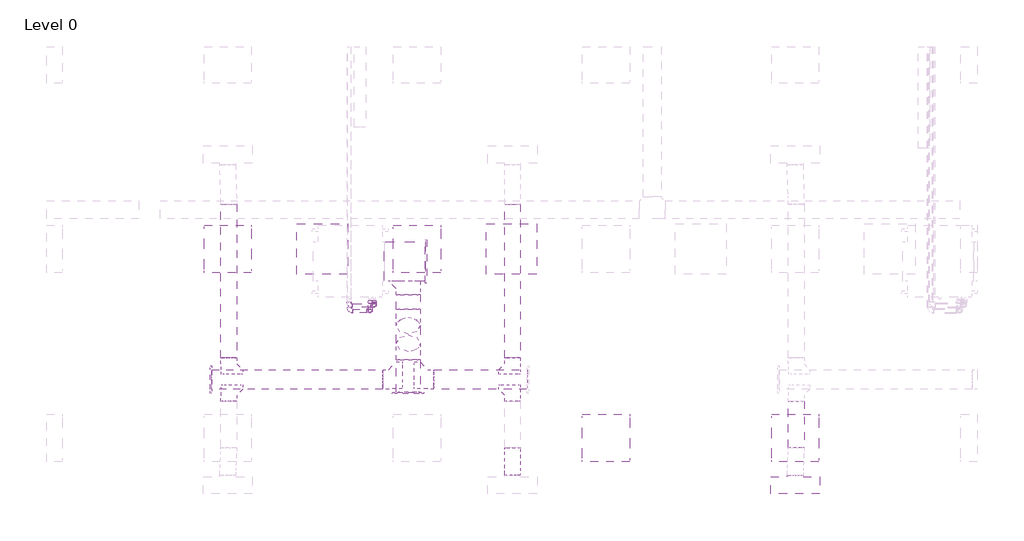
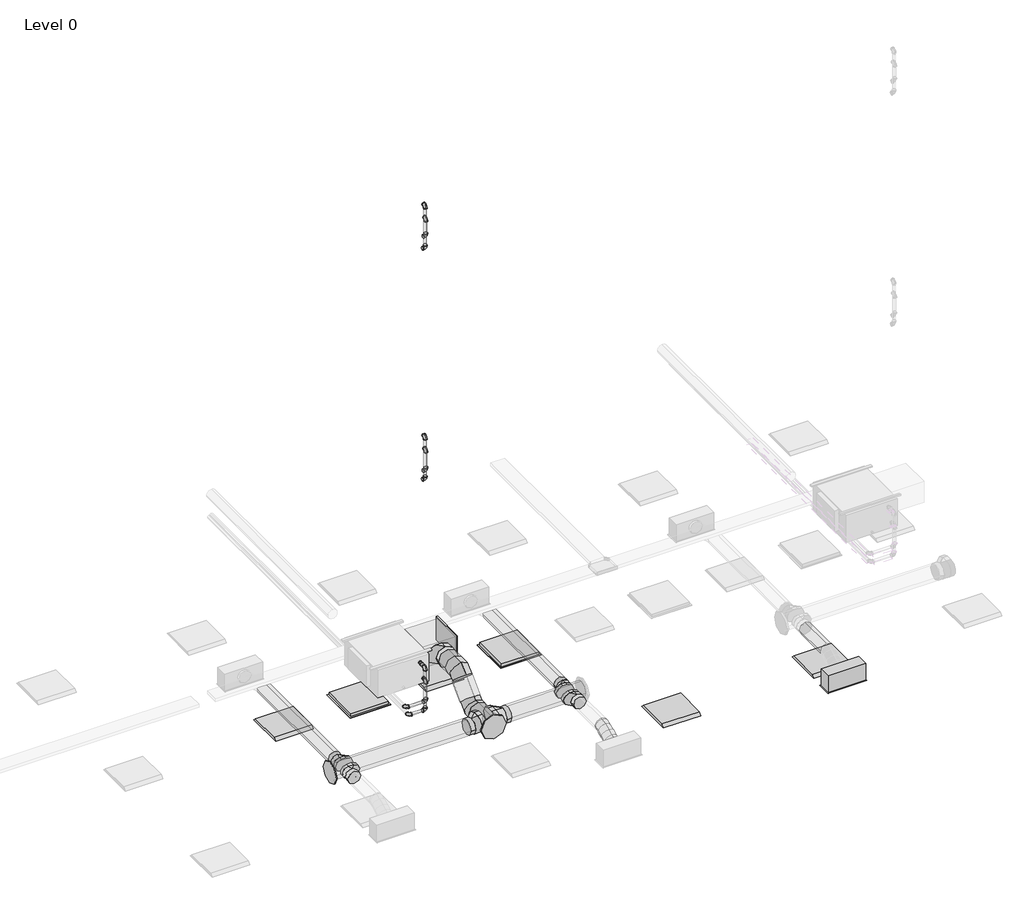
# One storey, part 8 of 34: 16 pipe fittings, 12 duct fittings, 10 duct segments, 10 pipe segments, 4 light fixtures, 3 air terminals.
"""IFC4 building model written with IfcOpenShell, lengths in millimetres."""

from ifc_helpers import new_model, si_unit, point, frame, frame_2d, origin, place, context, project, spatial, polyline, circle_curve, ellipse_curve, trimmed, segment, composite_curve, outline, extrude, transform, mapped, element, save
from ifc_brep_helpers import plane_surface, cylinder_surface, advanced_brep
from components import return_grille_rectangular_hosted_standard_7b12617c, supply_diffuser_with_plenum_linear_slot_hosted_8c379eed, dw144_rectangular_blank_end_standard_8fde7d16, dw144_round_blank_end_standard_f82b0856, dw144_round_blank_end_standard_9aa061e7, dw144_round_segmented_bend_slip_joint_standard_8b80c5ae, dw144_round_shoe_branch_slip_joint1_standard_2_15a2edd8, dw144_round_shoe_branch_slip_joint1_standard_2_559552f4, dw144_round_shoe_branch_slip_joint1_standard_2_7ba9e4ed, dw144_round_shoe_branch_slip_joint1_standard_2_67b64720, light_fixture_1c7c1157, light_fixture_b730b5ca, elbow_threaded_gmi_standard_b4aa7741, socket_reducing_threaded_gmi_standard_0a4076b8

model = new_model("IFC4")

# Units and contexts
model_context = context("Model", 3, world=origin())
ifc_project = project(units=[si_unit("LENGTHUNIT", "METRE", prefix="MILLI")], contexts=[model_context])

# Site, building, storey
site = spatial("IfcSite", under=ifc_project)
building = spatial("IfcBuilding", under=site)
storey = spatial("IfcBuildingStorey", under=building, Name="Level 0", Elevation=0.0)

# Air terminals
placement = place(None, origin())
return_grille_rectangular_hosted_standard_shape = return_grille_rectangular_hosted_standard_7b12617c(model_context)
element("IfcAirTerminal", 1, ObjectType="Return Grille - Rectangular - Hosted : Standard", at=placement, inside=storey, context=model_context, shape_type="MappedRepresentation", body=[
    mapped(return_grille_rectangular_hosted_standard_shape, transform((17562.2000027, 3963.2000004, 2800.0), x_axis=(1.0, 0.0, 0.0), y_axis=(0.0, -1.0, 0.0), z_axis=(0.0, 0.0, -1.0))),
])
element("IfcAirTerminal", 2, ObjectType="Return Grille - Rectangular - Hosted : Standard", at=placement, inside=storey, context=model_context, shape_type="MappedRepresentation", body=[
    mapped(return_grille_rectangular_hosted_standard_shape, transform((19962.2000027, 3963.2000004, 2800.0), x_axis=(1.0, 0.0, 0.0), y_axis=(0.0, -1.0, 0.0), z_axis=(0.0, 0.0, -1.0))),
])
supply_diffuser_with_plenum_linear_slot_hosted_shape = supply_diffuser_with_plenum_linear_slot_hosted_8c379eed(model_context)
element("IfcAirTerminal", 3, ObjectType="Supply Diffuser with Plenum - Linear Slot - Hosted : 24\" x 8\"-200 In Inlet  4-Slot", at=placement, inside=storey, context=model_context, shape_type="MappedRepresentation", body=[
    mapped(supply_diffuser_with_plenum_linear_slot_hosted_shape, transform((23562.2000027, 963.2000004, 2800.0), x_axis=(1.0, 0.0, 0.0), y_axis=(0.0, -1.0, 0.0), z_axis=(0.0, 0.0, -1.0))),
])

# Duct fittings
dw144_rectangular_blank_end_standard_shape = dw144_rectangular_blank_end_standard_8fde7d16(model_context)
element("IfcDuctFitting", 4, ObjectType="DW144 Rectangular Blank End : Standard", at=placement, inside=storey, context=model_context, shape_type="MappedRepresentation", body=[
    mapped(dw144_rectangular_blank_end_standard_shape, transform((18866.2561025, 3806.0000004, 3476.3911538), x_axis=(1.0, 0.0, 0.0), y_axis=(0.0, 1.0, 0.0), z_axis=(0.0, 0.0, 1.0))),
])
dw144_round_blank_end_standard_shape = dw144_round_blank_end_standard_f82b0856(model_context)
element("IfcDuctFitting", 5, ObjectType="DW144 Round Blank End : Standard", at=placement, inside=storey, context=model_context, shape_type="MappedRepresentation", body=[
    mapped(dw144_round_blank_end_standard_shape, transform((18651.4561025, 2142.9916128, 3072.2088531), x_axis=(0.0, -1.0, 0.0), y_axis=(1.0, 0.0, 0.0), z_axis=(0.0, 0.0, 1.0))),
])
dw144_round_blank_end_standard_2_shape = dw144_round_blank_end_standard_9aa061e7(model_context)
element("IfcDuctFitting", 6, ObjectType="DW144 Round Blank End : Standard", at=placement, inside=storey, context=model_context, shape_type="MappedRepresentation", body=[
    mapped(dw144_round_blank_end_standard_2_shape, transform((16161.4561025, 2306.5018192, 3072.2088531), x_axis=(-1.0, 0.0, 0.0), y_axis=(0.0, -1.0, 0.0), z_axis=(0.0, 0.0, 1.0))),
])
dw144_round_segmented_bend_slip_joint_standard_shape = dw144_round_segmented_bend_slip_joint_standard_8b80c5ae(model_context)
element("IfcDuctFitting", 7, ObjectType="DW144 Round Segmented Bend - Slip Joint : Standard", at=placement, inside=storey, context=model_context, shape_type="MappedRepresentation", body=[
    mapped(dw144_round_segmented_bend_slip_joint_standard_shape, transform((18651.4561025, 2678.6338536, 3072.2088531), x_axis=(0.0, -0.7071067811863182, -0.7071067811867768), y_axis=(0.0, 0.7071067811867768, -0.7071067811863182), z_axis=(1.0, 0.0, 0.0))),
])
element("IfcDuctFitting", 8, ObjectType="DW144 Round Segmented Bend - Slip Joint : Standard", at=placement, inside=storey, context=model_context, shape_type="MappedRepresentation", body=[
    mapped(dw144_round_segmented_bend_slip_joint_standard_shape, transform((18651.4561025, 3076.0000004, 3469.575), x_axis=(0.0, -1.0, 0.0), y_axis=(0.0, 0.0, 1.0), z_axis=(-1.0, 0.0, 0.0))),
])
dw144_round_shoe_branch_slip_joint1_standard_2_shape = dw144_round_shoe_branch_slip_joint1_standard_2_15a2edd8(model_context)
element("IfcDuctFitting", 9, ObjectType="DW144 Round Shoe Branch - Slip Joint1 : Standard 2", at=placement, inside=storey, context=model_context, shape_type="MappedRepresentation", body=[
    mapped(dw144_round_shoe_branch_slip_joint1_standard_2_shape, transform((16373.9000022, 2181.5018192, 3072.2088531), x_axis=(0.0, -1.0, 0.0), y_axis=(-1.0, 0.0, 0.0), z_axis=(0.0, 0.0, -1.0))),
])
element("IfcDuctFitting", 10, ObjectType="DW144 Round Shoe Branch - Slip Joint1 : Standard 2", at=placement, inside=storey, context=model_context, shape_type="MappedRepresentation", body=[
    mapped(dw144_round_shoe_branch_slip_joint1_standard_2_shape, transform((16373.9000022, 2431.5018192, 3072.2088531), x_axis=(0.0, 1.0, 0.0), y_axis=(-1.0, 0.0, 0.0), z_axis=(0.0, 0.0, 1.0))),
])
dw144_round_shoe_branch_slip_joint1_standard_2_2_shape = dw144_round_shoe_branch_slip_joint1_standard_2_559552f4(model_context)
element("IfcDuctFitting", 11, ObjectType="DW144 Round Shoe Branch - Slip Joint1 : Standard 2", at=placement, inside=storey, context=model_context, shape_type="MappedRepresentation", body=[
    mapped(dw144_round_shoe_branch_slip_joint1_standard_2_2_shape, transform((19973.9000022, 2181.5018192, 3072.2088531), x_axis=(0.0, -1.0, 0.0), y_axis=(-1.0, 0.0, 0.0), z_axis=(0.0, 0.0, -1.0))),
])
element("IfcDuctFitting", 12, ObjectType="DW144 Round Shoe Branch - Slip Joint1 : Standard 2", at=placement, inside=storey, context=model_context, shape_type="MappedRepresentation", body=[
    mapped(dw144_round_shoe_branch_slip_joint1_standard_2_2_shape, transform((19973.9000022, 2431.5018192, 3072.2088531), x_axis=(0.0, 1.0, 0.0), y_axis=(-1.0, 0.0, 0.0), z_axis=(0.0, 0.0, 1.0))),
])
dw144_round_shoe_branch_slip_joint1_standard_2_3_shape = dw144_round_shoe_branch_slip_joint1_standard_2_7ba9e4ed(model_context)
element("IfcDuctFitting", 13, ObjectType="DW144 Round Shoe Branch - Slip Joint1 : Standard 2", at=placement, inside=storey, context=model_context, shape_type="MappedRepresentation", body=[
    mapped(dw144_round_shoe_branch_slip_joint1_standard_2_3_shape, transform((18651.4561025, 3556.0000004, 3469.575), x_axis=(0.0, -1.0, 0.0), y_axis=(-1.0, 0.0, 0.0), z_axis=(0.0, 0.0, -1.0))),
])
dw144_round_shoe_branch_slip_joint1_standard_2_4_shape = dw144_round_shoe_branch_slip_joint1_standard_2_67b64720(model_context)
element("IfcDuctFitting", 14, ObjectType="DW144 Round Shoe Branch - Slip Joint1 : Standard 2", at=placement, inside=storey, context=model_context, shape_type="MappedRepresentation", body=[
    mapped(dw144_round_shoe_branch_slip_joint1_standard_2_4_shape, transform((18801.4561025, 2306.5018192, 3072.2088531), x_axis=(1.0, 0.0, 0.0), y_axis=(0.0, -1.0, 0.0), z_axis=(0.0, 0.0, -1.0))),
])
element("IfcDuctFitting", 15, ObjectType="DW144 Round Shoe Branch - Slip Joint1 : Standard 2", at=placement, inside=storey, context=model_context, shape_type="MappedRepresentation", body=[
    mapped(dw144_round_shoe_branch_slip_joint1_standard_2_4_shape, transform((18501.4561025, 2306.5018192, 3072.2088531), x_axis=(-1.0, 0.0, 0.0), y_axis=(0.0, -1.0, 0.0), z_axis=(0.0, 0.0, 1.0))),
])

# Duct segments
element("IfcDuctSegment", 16, ObjectType="DW144 Flanged Med Radius Bend / Shoe Branch", at=placement, inside=storey, context=model_context, shape_type="SweptSolid", body=[
    extrude(outline(polyline([(18346.6561025, 3556.0000004), (18346.6561025, 4056.0000004), (18866.2561025, 4056.0000004), (18866.2561025, 3556.0000004), (18346.6561025, 3556.0000004)])), frame((0.0, 0.0, 3301.3911538), z_axis=(0.0, 0.0, 1.0), x_axis=(1.0, 0.0, 0.0)), (0.0, 0.0, 1.0), 350.0),
])
element("IfcDuctSegment", 17, ObjectType="DW144 Segmented Bend / Shoe Branch", at=placement, inside=storey, context=model_context, shape_type="SweptSolid", body=[
    extrude(outline(composite_curve([segment(trimmed(circle_curve(frame_2d((3469.575, 18651.4561025)), 150.0), [point((3469.575, 18501.4561025))], [point((3319.575, 18651.4561025))], False, "CARTESIAN"), True, "CONTINUOUS"), segment(trimmed(circle_curve(frame_2d((3469.575, 18651.4561025)), 150.0), [point((3319.575, 18651.4561025))], [point((3469.575, 18801.4561025))], False, "CARTESIAN"), True, "CONTINUOUS"), segment(trimmed(circle_curve(frame_2d((3469.575, 18651.4561025)), 150.0), [point((3469.575, 18801.4561025))], [point((3619.575, 18651.4561025))], False, "CARTESIAN"), True, "CONTINUOUS"), segment(trimmed(circle_curve(frame_2d((3469.575, 18651.4561025)), 150.0), [point((3619.575, 18651.4561025))], [point((3469.575, 18501.4561025))], False, "CARTESIAN"), True, "CONTINUOUS")], self_intersect=False)), frame((0.0, 3200.2640691, 0.0), z_axis=(0.0, 1.0, 0.0), x_axis=(0.0, 0.0, 1.0)), (0.0, 0.0, 1.0), 180.7359313),
])
element("IfcDuctSegment", 18, ObjectType="DW144 Segmented Bend / Shoe Branch", at=placement, inside=storey, context=model_context, shape_type="SweptSolid", body=[
    extrude(outline(composite_curve([segment(trimmed(circle_curve(frame_2d((3072.2088531, 18651.4561025)), 150.0), [point((3072.2088531, 18501.4561025))], [point((2922.2088531, 18651.4561025))], False, "CARTESIAN"), True, "CONTINUOUS"), segment(trimmed(circle_curve(frame_2d((3072.2088531, 18651.4561025)), 150.0), [point((2922.2088531, 18651.4561025))], [point((3072.2088531, 18801.4561025))], False, "CARTESIAN"), True, "CONTINUOUS"), segment(trimmed(circle_curve(frame_2d((3072.2088531, 18651.4561025)), 150.0), [point((3072.2088531, 18801.4561025))], [point((3222.2088531, 18651.4561025))], False, "CARTESIAN"), True, "CONTINUOUS"), segment(trimmed(circle_curve(frame_2d((3072.2088531, 18651.4561025)), 150.0), [point((3222.2088531, 18651.4561025))], [point((3072.2088531, 18501.4561025))], False, "CARTESIAN"), True, "CONTINUOUS")], self_intersect=False)), frame((0.0, 2142.9916128, 0.0), z_axis=(0.0, 1.0, 0.0), x_axis=(0.0, 0.0, 1.0)), (0.0, 0.0, 1.0), 411.3781721),
])
element("IfcDuctSegment", 19, ObjectType="DW144 Segmented Bend / Shoe Branch", at=placement, inside=storey, context=model_context, shape_type="SweptSolid", body=[
    extrude(outline(composite_curve([segment(trimmed(circle_curve(frame_2d((0.0, -150.0)), 150.0), [point((-150.0, -150.0))], [point((0.0, 0.0))], False, "CARTESIAN"), True, "CONTINUOUS"), segment(trimmed(circle_curve(frame_2d((0.0, -150.0)), 150.0), [point((0.0, 0.0))], [point((150.0, -150.0))], False, "CARTESIAN"), True, "CONTINUOUS"), segment(trimmed(circle_curve(frame_2d((0.0, -150.0)), 150.0), [point((150.0, -150.0))], [point((0.0, -300.0))], False, "CARTESIAN"), True, "CONTINUOUS"), segment(trimmed(circle_curve(frame_2d((0.0, -150.0)), 150.0), [point((0.0, -300.0))], [point((-150.0, -150.0))], False, "CARTESIAN"), True, "CONTINUOUS")], self_intersect=False)), frame((18651.4561025, 2872.5678364, 3054.0108016), z_axis=(0.0, 0.7071067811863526, 0.7071067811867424), x_axis=(1.0, 0.0, 0.0)), (0.0, 0.0, 1.0), 313.4324567),
])
element("IfcDuctSegment", 20, ObjectType="DW144 Segmented Bend / Shoe Branch", at=placement, inside=storey, context=model_context, shape_type="SweptSolid", body=[
    extrude(outline(composite_curve([segment(trimmed(circle_curve(frame_2d((2306.5018192, 3072.2088531)), 125.0), [point((2181.5018192, 3072.2088531))], [point((2306.5018192, 3197.2088531))], False, "CARTESIAN"), True, "CONTINUOUS"), segment(trimmed(circle_curve(frame_2d((2306.5018192, 3072.2088531)), 125.0), [point((2306.5018192, 3197.2088531))], [point((2431.5018192, 3072.2088531))], False, "CARTESIAN"), True, "CONTINUOUS"), segment(trimmed(circle_curve(frame_2d((2306.5018192, 3072.2088531)), 125.0), [point((2431.5018192, 3072.2088531))], [point((2306.5018192, 2947.2088531))], False, "CARTESIAN"), True, "CONTINUOUS"), segment(trimmed(circle_curve(frame_2d((2306.5018192, 3072.2088531)), 125.0), [point((2306.5018192, 2947.2088531))], [point((2181.5018192, 3072.2088531))], False, "CARTESIAN"), True, "CONTINUOUS")], self_intersect=False)), frame((18976.4561025, 0.0, 0.0), z_axis=(1.0, 0.0, 0.0), x_axis=(0.0, 1.0, 0.0)), (0.0, 0.0, 1.0), 1185.0),
])
element("IfcDuctSegment", 21, ObjectType="DW144 Segmented Bend / Shoe Branch", at=placement, inside=storey, context=model_context, shape_type="SweptSolid", body=[
    extrude(outline(composite_curve([segment(trimmed(circle_curve(frame_2d((2306.5018192, 3072.2088531)), 125.0), [point((2431.5018192, 3072.2088531))], [point((2306.5018192, 2947.2088531))], False, "CARTESIAN"), True, "CONTINUOUS"), segment(trimmed(circle_curve(frame_2d((2306.5018192, 3072.2088531)), 125.0), [point((2306.5018192, 2947.2088531))], [point((2181.5018192, 3072.2088531))], False, "CARTESIAN"), True, "CONTINUOUS"), segment(trimmed(circle_curve(frame_2d((2306.5018192, 3072.2088531)), 125.0), [point((2181.5018192, 3072.2088531))], [point((2306.5018192, 3197.2088531))], False, "CARTESIAN"), True, "CONTINUOUS"), segment(trimmed(circle_curve(frame_2d((2306.5018192, 3072.2088531)), 125.0), [point((2306.5018192, 3197.2088531))], [point((2431.5018192, 3072.2088531))], False, "CARTESIAN"), True, "CONTINUOUS")], self_intersect=False)), frame((16161.4561025, 0.0, 0.0), z_axis=(1.0, 0.0, 0.0), x_axis=(0.0, 1.0, 0.0)), (0.0, 0.0, 1.0), 2165.0),
])
element("IfcDuctSegment", 22, ObjectType="DW144 Segmented Bend / Shoe Branch", at=placement, inside=storey, context=model_context, shape_type="SweptSolid", body=[
    extrude(outline(composite_curve([segment(trimmed(circle_curve(frame_2d((3072.2088531, 19973.9000022)), 100.0), [point((3072.2088531, 20073.9000022))], [point((3172.2088531, 19973.9000022))], False, "CARTESIAN"), True, "CONTINUOUS"), segment(trimmed(circle_curve(frame_2d((3072.2088531, 19973.9000022)), 100.0), [point((3172.2088531, 19973.9000022))], [point((3072.2088531, 19873.9000022))], False, "CARTESIAN"), True, "CONTINUOUS"), segment(trimmed(circle_curve(frame_2d((3072.2088531, 19973.9000022)), 100.0), [point((3072.2088531, 19873.9000022))], [point((2972.2088531, 19973.9000022))], False, "CARTESIAN"), True, "CONTINUOUS"), segment(trimmed(circle_curve(frame_2d((3072.2088531, 19973.9000022)), 100.0), [point((2972.2088531, 19973.9000022))], [point((3072.2088531, 20073.9000022))], False, "CARTESIAN"), True, "CONTINUOUS")], self_intersect=False)), frame((0.0, 2581.5018192, 0.0), z_axis=(0.0, 1.0, 0.0), x_axis=(0.0, 0.0, 1.0)), (0.0, 0.0, 1.0), 1950.0),
])
element("IfcDuctSegment", 23, ObjectType="DW144 Segmented Bend / Shoe Branch", at=placement, inside=storey, context=model_context, shape_type="SweptSolid", body=[
    extrude(outline(composite_curve([segment(trimmed(circle_curve(frame_2d((3072.2088531, 16373.9000022)), 100.0), [point((3072.2088531, 16473.9000022))], [point((3172.2088531, 16373.9000022))], False, "CARTESIAN"), True, "CONTINUOUS"), segment(trimmed(circle_curve(frame_2d((3072.2088531, 16373.9000022)), 100.0), [point((3172.2088531, 16373.9000022))], [point((3072.2088531, 16273.9000022))], False, "CARTESIAN"), True, "CONTINUOUS"), segment(trimmed(circle_curve(frame_2d((3072.2088531, 16373.9000022)), 100.0), [point((3072.2088531, 16273.9000022))], [point((2972.2088531, 16373.9000022))], False, "CARTESIAN"), True, "CONTINUOUS"), segment(trimmed(circle_curve(frame_2d((3072.2088531, 16373.9000022)), 100.0), [point((2972.2088531, 16373.9000022))], [point((3072.2088531, 16473.9000022))], False, "CARTESIAN"), True, "CONTINUOUS")], self_intersect=False)), frame((0.0, 2581.5018192, 0.0), z_axis=(0.0, 1.0, 0.0), x_axis=(0.0, 0.0, 1.0)), (0.0, 0.0, 1.0), 1950.0),
])
element("IfcDuctSegment", 24, ObjectType="DW144 Segmented Bend / Shoe Branch", at=placement, inside=storey, context=model_context, shape_type="SweptSolid", body=[
    extrude(outline(composite_curve([segment(trimmed(circle_curve(frame_2d((3072.2088531, 23573.9000022)), 100.0), [point((3072.2088531, 23673.9000022))], [point((3172.2088531, 23573.9000022))], False, "CARTESIAN"), True, "CONTINUOUS"), segment(trimmed(circle_curve(frame_2d((3072.2088531, 23573.9000022)), 100.0), [point((3172.2088531, 23573.9000022))], [point((3072.2088531, 23473.9000022))], False, "CARTESIAN"), True, "CONTINUOUS"), segment(trimmed(circle_curve(frame_2d((3072.2088531, 23573.9000022)), 100.0), [point((3072.2088531, 23473.9000022))], [point((2972.2088531, 23573.9000022))], False, "CARTESIAN"), True, "CONTINUOUS"), segment(trimmed(circle_curve(frame_2d((3072.2088531, 23573.9000022)), 100.0), [point((2972.2088531, 23573.9000022))], [point((3072.2088531, 23673.9000022))], False, "CARTESIAN"), True, "CONTINUOUS")], self_intersect=False)), frame((0.0, 1441.5018192, 0.0), z_axis=(0.0, 1.0, 0.0), x_axis=(0.0, 0.0, 1.0)), (0.0, 0.0, 1.0), 590.0),
])
element("IfcDuctSegment", 25, ObjectType="Flex - Round", at=placement, inside=storey, context=model_context, shape_type="AdvancedBrep", body=[
    advanced_brep(
    [(20073.9000022, 1441.5018192, 3072.2088531), (19973.9000022, 1441.5018192, 2972.2088531), (19873.9000022, 1441.5018192, 3072.2088531), (19973.9000022, 1441.5018192, 3172.2088531), (20073.9000022, 1421.2831204, 3072.2088531), (19973.9000022, 1434.4030998, 2972.2088531), (19873.9000022, 1421.2831204, 3072.2088531), (19973.9000022, 1408.1631411, 3172.2088531), (20073.9000022, 1092.1000004, 2954.4), (19973.9000022, 1092.1000004, 3054.4), (19873.9000022, 1092.1000004, 2954.4), (19973.9000022, 1092.1000004, 2854.4), (20073.9000022, 1352.3395072, 3053.8012198), (19973.9000022, 1386.9157373, 2959.5299419), (19873.9000022, 1352.3395072, 3053.8012198), (19973.9000022, 1317.7632771, 3148.0724978), (20073.9000022, 1266.8009098, 3013.3044266), (19973.9000022, 1309.5909979, 2922.9218599), (19873.9000022, 1266.8009098, 3013.3044266), (19973.9000022, 1224.0108217, 3103.6869932), (20073.9000022, 1181.2623124, 2972.8076333), (19973.9000022, 1215.8385426, 2878.5363553), (19873.9000022, 1181.2623124, 2972.8076333), (19973.9000022, 1146.6860823, 3067.0789113), (20073.9000022, 1112.3186992, 2954.4), (19973.9000022, 1125.4386785, 2854.4), (19873.9000022, 1112.3186992, 2954.4), (19973.9000022, 1099.1987199, 3054.4)],
    [
        (0, 1, circle_curve(frame((19973.9000022, 1441.5018192, 3072.2088531), z_axis=(0.0, 1.0, 0.0), x_axis=(1.0, 0.0, 0.0)), 100.0)),
        (1, 2, circle_curve(frame((19973.9000022, 1441.5018192, 3072.2088531), z_axis=(0.0, 1.0, 0.0), x_axis=(1.0, 0.0, 0.0)), 100.0)),
        (2, 3, circle_curve(frame((19973.9000022, 1441.5018192, 3072.2088531), z_axis=(0.0, 1.0, 0.0), x_axis=(1.0, 0.0, 0.0)), 100.0)),
        (3, 0, circle_curve(frame((19973.9000022, 1441.5018192, 3072.2088531), z_axis=(0.0, 1.0, 0.0), x_axis=(1.0, 0.0, 0.0)), 100.0)),
        (0, 4),
        (4, 5, ellipse_curve(frame((19973.9000022, 1421.2831204, 3072.2088531), z_axis=(0.0, 0.9915028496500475, 0.1300849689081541), x_axis=(0.0, 0.13008496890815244, -0.9915028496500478)), 100.8569971, 100.0)),
        (5, 1),
        (5, 6, ellipse_curve(frame((19973.9000022, 1421.2831204, 3072.2088531), z_axis=(0.0, 0.9915028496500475, 0.1300849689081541), x_axis=(0.0, 0.13008496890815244, -0.9915028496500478)), 100.8569971, 100.0)),
        (6, 2),
        (6, 7, ellipse_curve(frame((19973.9000022, 1421.2831204, 3072.2088531), z_axis=(0.0, 0.9915028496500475, 0.1300849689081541), x_axis=(0.0, 0.13008496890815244, -0.9915028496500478)), 100.8569971, 100.0)),
        (7, 3),
        (7, 4, ellipse_curve(frame((19973.9000022, 1421.2831204, 3072.2088531), z_axis=(0.0, 0.9915028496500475, 0.1300849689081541), x_axis=(0.0, 0.13008496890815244, -0.9915028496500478)), 100.8569971, 100.0)),
        (8, 9, circle_curve(frame((19973.9000022, 1092.1000004, 2954.4), z_axis=(0.0, -1.0, 0.0), x_axis=(1.0, 0.0, 0.0)), 100.0)),
        (9, 10, circle_curve(frame((19973.9000022, 1092.1000004, 2954.4), z_axis=(0.0, -1.0, 0.0), x_axis=(1.0, 0.0, 0.0)), 100.0)),
        (10, 11, circle_curve(frame((19973.9000022, 1092.1000004, 2954.4), z_axis=(0.0, -1.0, 0.0), x_axis=(1.0, 0.0, 0.0)), 100.0)),
        (11, 8, circle_curve(frame((19973.9000022, 1092.1000004, 2954.4), z_axis=(0.0, -1.0, 0.0), x_axis=(1.0, 0.0, 0.0)), 100.0)),
        (4, 12),
        (12, 13, ellipse_curve(frame((19973.9000022, 1352.3395072, 3053.8012198), z_axis=(0.0, 0.9388438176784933, 0.34434326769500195), x_axis=(0.0, 0.344343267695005, -0.9388438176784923)), 100.4120986, 100.0)),
        (13, 5),
        (13, 14, ellipse_curve(frame((19973.9000022, 1352.3395072, 3053.8012198), z_axis=(0.0, 0.9388438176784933, 0.34434326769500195), x_axis=(0.0, 0.344343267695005, -0.9388438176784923)), 100.4120986, 100.0)),
        (14, 6),
        (14, 15, ellipse_curve(frame((19973.9000022, 1352.3395072, 3053.8012198), z_axis=(0.0, 0.9388438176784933, 0.34434326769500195), x_axis=(0.0, 0.344343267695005, -0.9388438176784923)), 100.4120986, 100.0)),
        (15, 7),
        (15, 12, ellipse_curve(frame((19973.9000022, 1352.3395072, 3053.8012198), z_axis=(0.0, 0.9388438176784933, 0.34434326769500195), x_axis=(0.0, 0.344343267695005, -0.9388438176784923)), 100.4120986, 100.0)),
        (12, 16),
        (16, 17, circle_curve(frame((19973.9000022, 1266.8009098, 3013.3044266), z_axis=(0.0, 0.903825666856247, 0.42790088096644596), x_axis=(1.0, 0.0, 0.0)), 100.0)),
        (17, 13),
        (17, 18, circle_curve(frame((19973.9000022, 1266.8009098, 3013.3044266), z_axis=(0.0, 0.903825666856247, 0.42790088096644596), x_axis=(1.0, 0.0, 0.0)), 100.0)),
        (18, 14),
        (18, 19, circle_curve(frame((19973.9000022, 1266.8009098, 3013.3044266), z_axis=(0.0, 0.903825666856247, 0.42790088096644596), x_axis=(1.0, 0.0, 0.0)), 100.0)),
        (19, 15),
        (19, 16, circle_curve(frame((19973.9000022, 1266.8009098, 3013.3044266), z_axis=(0.0, 0.903825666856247, 0.42790088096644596), x_axis=(1.0, 0.0, 0.0)), 100.0)),
        (16, 20),
        (20, 21, ellipse_curve(frame((19973.9000022, 1181.2623124, 2972.8076333), z_axis=(0.0, 0.9388438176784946, 0.3443432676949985), x_axis=(0.0, -0.34434326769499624, 0.9388438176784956)), 100.4120986, 100.0)),
        (21, 17),
        (21, 22, ellipse_curve(frame((19973.9000022, 1181.2623124, 2972.8076333), z_axis=(0.0, 0.9388438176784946, 0.3443432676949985), x_axis=(0.0, -0.34434326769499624, 0.9388438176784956)), 100.4120986, 100.0)),
        (22, 18),
        (22, 23, ellipse_curve(frame((19973.9000022, 1181.2623124, 2972.8076333), z_axis=(0.0, 0.9388438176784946, 0.3443432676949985), x_axis=(0.0, -0.34434326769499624, 0.9388438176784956)), 100.4120986, 100.0)),
        (23, 19),
        (23, 20, ellipse_curve(frame((19973.9000022, 1181.2623124, 2972.8076333), z_axis=(0.0, 0.9388438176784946, 0.3443432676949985), x_axis=(0.0, -0.34434326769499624, 0.9388438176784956)), 100.4120986, 100.0)),
        (20, 24),
        (24, 25, ellipse_curve(frame((19973.9000022, 1112.3186992, 2954.4), z_axis=(0.0, 0.9915028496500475, 0.13008496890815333), x_axis=(0.0, -0.13008496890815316, 0.9915028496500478)), 100.8569971, 100.0)),
        (25, 21),
        (25, 26, ellipse_curve(frame((19973.9000022, 1112.3186992, 2954.4), z_axis=(0.0, 0.9915028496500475, 0.13008496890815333), x_axis=(0.0, -0.13008496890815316, 0.9915028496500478)), 100.8569971, 100.0)),
        (26, 22),
        (26, 27, ellipse_curve(frame((19973.9000022, 1112.3186992, 2954.4), z_axis=(0.0, 0.9915028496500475, 0.13008496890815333), x_axis=(0.0, -0.13008496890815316, 0.9915028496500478)), 100.8569971, 100.0)),
        (27, 23),
        (27, 24, ellipse_curve(frame((19973.9000022, 1112.3186992, 2954.4), z_axis=(0.0, 0.9915028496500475, 0.13008496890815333), x_axis=(0.0, -0.13008496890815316, 0.9915028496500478)), 100.8569971, 100.0)),
        (24, 8),
        (11, 25),
        (10, 26),
        (9, 27),
    ],
    [
        plane_surface(frame((19873.9000022, 1441.5018192, 3072.2088531), z_axis=(0.0, 1.0, 0.0), x_axis=(0.0, 0.0, -1.0))),
        cylinder_surface(frame((19973.9000022, 1441.5018192, 3072.2088531), z_axis=(0.0, 1.0, 0.0), x_axis=(1.0, 0.0, 0.0)), 100.0),
        plane_surface(frame((19873.9000022, 1092.1000004, 2954.4), z_axis=(0.0, -1.0, 0.0), x_axis=(0.0, 0.0, -1.0))),
        cylinder_surface(frame((19973.9000022, 1421.2831204, 3072.2088531), z_axis=(0.0, 0.9661558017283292, 0.2579592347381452), x_axis=(1.0, 0.0, 0.0)), 100.0),
        cylinder_surface(frame((19973.9000022, 1352.3395072, 3053.8012198), z_axis=(0.0, 0.903825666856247, 0.42790088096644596), x_axis=(1.0, 0.0, 0.0)), 100.0),
        cylinder_surface(frame((19973.9000022, 1266.8009098, 3013.3044266), z_axis=(0.0, 0.9038256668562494, 0.42790088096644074), x_axis=(1.0, 0.0, 0.0)), 100.0),
        cylinder_surface(frame((19973.9000022, 1181.2623124, 2972.8076333), z_axis=(0.0, 0.9661558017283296, 0.25795923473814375), x_axis=(1.0, 0.0, 0.0)), 100.0),
        cylinder_surface(frame((19973.9000022, 1112.3186992, 2954.4), z_axis=(0.0, 1.0, 0.0), x_axis=(1.0, 0.0, 0.0)), 100.0),
    ],
    [
        (0, [[1, 2, 3, 4]]),
        (1, [[-1, 5, 6, 7]]),
        (1, [[-2, -7, 8, 9]]),
        (1, [[-3, -9, 10, 11]]),
        (1, [[-4, -11, 12, -5]]),
        (2, [[13, 14, 15, 16]]),
        (3, [[-6, 17, 18, 19]]),
        (3, [[-8, -19, 20, 21]]),
        (3, [[-10, -21, 22, 23]]),
        (3, [[-12, -23, 24, -17]]),
        (4, [[-18, 25, 26, 27]]),
        (4, [[-20, -27, 28, 29]]),
        (4, [[-22, -29, 30, 31]]),
        (4, [[-24, -31, 32, -25]]),
        (5, [[-26, 33, 34, 35]]),
        (5, [[-28, -35, 36, 37]]),
        (5, [[-30, -37, 38, 39]]),
        (5, [[-32, -39, 40, -33]]),
        (6, [[-34, 41, 42, 43]]),
        (6, [[-36, -43, 44, 45]]),
        (6, [[-38, -45, 46, 47]]),
        (6, [[-40, -47, 48, -41]]),
        (7, [[-42, 49, -16, 50]]),
        (7, [[-44, -50, -15, 51]]),
        (7, [[-46, -51, -14, 52]]),
        (7, [[-48, -52, -13, -49]]),
    ],
),
])

# Light fixtures
light_fixture_shape = light_fixture_1c7c1157(model_context)
element("IfcLightFixture", 26, ObjectType="ELEKTRA Plain Recessed Lighting Fixture : 24\" x 24\" - 230", at=placement, inside=storey, context=model_context, shape_type="MappedRepresentation", body=[
    mapped(light_fixture_shape, transform((20862.2000027, 1263.2000004, 2800.0), x_axis=(1.0, 0.0, 0.0), y_axis=(0.0, -1.0, 0.0), z_axis=(0.0, 0.0, -1.0))),
])
element("IfcLightFixture", 27, ObjectType="ELEKTRA Plain Recessed Lighting Fixture : 24\" x 24\" - 230", at=placement, inside=storey, context=model_context, shape_type="MappedRepresentation", body=[
    mapped(light_fixture_shape, transform((23262.2000027, 1263.2000004, 2800.0), x_axis=(1.0, 0.0, 0.0), y_axis=(0.0, -1.0, 0.0), z_axis=(0.0, 0.0, -1.0))),
])
element("IfcLightFixture", 28, ObjectType="ELEKTRA Plain Recessed Lighting Fixture : 24\" x 24\" - 230", at=placement, inside=storey, context=model_context, shape_type="MappedRepresentation", body=[
    mapped(light_fixture_shape, transform((16062.2000027, 3663.2000004, 2800.0), x_axis=(1.0, 0.0, 0.0), y_axis=(0.0, -1.0, 0.0), z_axis=(0.0, 0.0, -1.0))),
])
light_fixture_2_shape = light_fixture_b730b5ca(model_context)
element("IfcLightFixture", 29, ObjectType="ELEKTRA EM Recessed Lighting Fixture : 24\" x 24\" - 230", at=placement, inside=storey, context=model_context, shape_type="MappedRepresentation", body=[
    mapped(light_fixture_2_shape, transform((18462.2000027, 3663.2000004, 2800.0), x_axis=(1.0, 0.0, 0.0), y_axis=(0.0, -1.0, 0.0), z_axis=(0.0, 0.0, -1.0))),
])

# Pipe fittings
elbow_threaded_gmi_standard_shape = elbow_threaded_gmi_standard_b4aa7741(model_context)
element("IfcPipeFitting", 30, ObjectType="Elbow - Threaded - GMI : Standard", at=placement, inside=storey, context=model_context, shape_type="MappedRepresentation", body=[
    mapped(elbow_threaded_gmi_standard_shape, transform((18168.8561025, 3177.232951, 10693.9343179), x_axis=(0.0, 0.0, -1.0), y_axis=(-1.0, 0.0, 0.0), z_axis=(0.0, 1.0, 0.0))),
])
element("IfcPipeFitting", 31, ObjectType="Elbow - Threaded - GMI : Standard", at=placement, inside=storey, context=model_context, shape_type="MappedRepresentation", body=[
    mapped(elbow_threaded_gmi_standard_shape, transform((18219.6561025, 3246.7427522, 10834.6193977), x_axis=(0.0, 0.0, -1.0), y_axis=(-1.0, 0.0, 0.0), z_axis=(0.0, 1.0, 0.0))),
])
element("IfcPipeFitting", 32, ObjectType="Elbow - Threaded - GMI : Standard", at=placement, inside=storey, context=model_context, shape_type="MappedRepresentation", body=[
    mapped(elbow_threaded_gmi_standard_shape, transform((18219.6561025, 3246.7427522, 11123.9911538), x_axis=(0.0, 0.0, 1.0), y_axis=(0.0, 1.0, 0.0), z_axis=(-1.0, 0.0, 0.0))),
])
element("IfcPipeFitting", 33, ObjectType="Elbow - Threaded - GMI : Standard", at=placement, inside=storey, context=model_context, shape_type="MappedRepresentation", body=[
    mapped(elbow_threaded_gmi_standard_shape, transform((18168.8561025, 3177.232951, 11403.3911538), x_axis=(0.0, 0.0, 1.0), y_axis=(0.0, 1.0, 0.0), z_axis=(-1.0, 0.0, 0.0))),
])
element("IfcPipeFitting", 34, ObjectType="Elbow - Threaded - GMI : Standard", at=placement, inside=storey, context=model_context, shape_type="MappedRepresentation", body=[
    mapped(elbow_threaded_gmi_standard_shape, transform((18168.8561025, 3177.232951, 6793.9343179), x_axis=(0.0, 0.0, -1.0), y_axis=(-1.0, 0.0, 0.0), z_axis=(0.0, 1.0, 0.0))),
])
element("IfcPipeFitting", 35, ObjectType="Elbow - Threaded - GMI : Standard", at=placement, inside=storey, context=model_context, shape_type="MappedRepresentation", body=[
    mapped(elbow_threaded_gmi_standard_shape, transform((18219.6561025, 3246.7427522, 6880.0), x_axis=(0.0, 0.0, -1.0), y_axis=(-1.0, 0.0, 0.0), z_axis=(0.0, 1.0, 0.0))),
])
element("IfcPipeFitting", 36, ObjectType="Elbow - Threaded - GMI : Standard", at=placement, inside=storey, context=model_context, shape_type="MappedRepresentation", body=[
    mapped(elbow_threaded_gmi_standard_shape, transform((18168.8561025, 3177.232951, 7503.3911538), x_axis=(0.0, 0.0, 1.0), y_axis=(0.0, 1.0, 0.0), z_axis=(-1.0, 0.0, 0.0))),
])
element("IfcPipeFitting", 37, ObjectType="Elbow - Threaded - GMI : Standard", at=placement, inside=storey, context=model_context, shape_type="MappedRepresentation", body=[
    mapped(elbow_threaded_gmi_standard_shape, transform((18219.6561025, 3246.7427522, 7223.9911538), x_axis=(0.0, 0.0, 1.0), y_axis=(0.0, 1.0, 0.0), z_axis=(-1.0, 0.0, 0.0))),
])
element("IfcPipeFitting", 38, ObjectType="Elbow - Threaded - GMI : Standard", at=placement, inside=storey, context=model_context, shape_type="MappedRepresentation", body=[
    mapped(elbow_threaded_gmi_standard_shape, transform((18168.8561025, 3177.232951, 2893.9343179), x_axis=(0.0, 0.0, -1.0), y_axis=(-1.0, 0.0, 0.0), z_axis=(0.0, 1.0, 0.0))),
])
element("IfcPipeFitting", 39, ObjectType="Elbow - Threaded - GMI : Standard", at=placement, inside=storey, context=model_context, shape_type="MappedRepresentation", body=[
    mapped(elbow_threaded_gmi_standard_shape, transform((17903.0774681, 3177.232951, 2893.9343179), x_axis=(0.0, -1.0, 0.0), y_axis=(1.0, 0.0, 0.0), z_axis=(0.0, 0.0, 1.0))),
])
element("IfcPipeFitting", 40, ObjectType="Elbow - Threaded - GMI : Standard", at=placement, inside=storey, context=model_context, shape_type="MappedRepresentation", body=[
    mapped(elbow_threaded_gmi_standard_shape, transform((18219.6561025, 3246.7427522, 2980.0), x_axis=(0.0, 0.0, -1.0), y_axis=(-1.0, 0.0, 0.0), z_axis=(0.0, 1.0, 0.0))),
])
element("IfcPipeFitting", 41, ObjectType="Elbow - Threaded - GMI : Standard", at=placement, inside=storey, context=model_context, shape_type="MappedRepresentation", body=[
    mapped(elbow_threaded_gmi_standard_shape, transform((17898.7529576, 3246.7427522, 2980.0), x_axis=(0.0, -1.0, 0.0), y_axis=(1.0, 0.0, 0.0), z_axis=(0.0, 0.0, 1.0))),
])
element("IfcPipeFitting", 42, ObjectType="Elbow - Threaded - GMI : Standard", at=placement, inside=storey, context=model_context, shape_type="MappedRepresentation", body=[
    mapped(elbow_threaded_gmi_standard_shape, transform((18168.8561025, 3177.232951, 3603.3911538), x_axis=(0.0, 0.0, 1.0), y_axis=(0.0, 1.0, 0.0), z_axis=(-1.0, 0.0, 0.0))),
])
element("IfcPipeFitting", 43, ObjectType="Elbow - Threaded - GMI : Standard", at=placement, inside=storey, context=model_context, shape_type="MappedRepresentation", body=[
    mapped(elbow_threaded_gmi_standard_shape, transform((18219.6561025, 3246.7427522, 3323.9911538), x_axis=(0.0, 0.0, 1.0), y_axis=(0.0, 1.0, 0.0), z_axis=(-1.0, 0.0, 0.0))),
])
socket_reducing_threaded_gmi_standard_shape = socket_reducing_threaded_gmi_standard_0a4076b8(model_context)
element("IfcPipeFitting", 44, ObjectType="Socket Reducing - Threaded - GMI : Standard", at=placement, inside=storey, context=model_context, shape_type="MappedRepresentation", body=[
    mapped(socket_reducing_threaded_gmi_standard_shape, transform((18219.6561025, 3323.4000004, 3323.9911538), x_axis=(0.0, -1.0, 0.0), y_axis=(1.0, 0.0, 0.0), z_axis=(0.0, 0.0, 1.0))),
])
element("IfcPipeFitting", 45, ObjectType="Socket Reducing - Threaded - GMI : Standard", at=placement, inside=storey, context=model_context, shape_type="MappedRepresentation", body=[
    mapped(socket_reducing_threaded_gmi_standard_shape, transform((18168.8561025, 3323.4000004, 3603.3911538), x_axis=(0.0, -1.0, 0.0), y_axis=(1.0, 0.0, 0.0), z_axis=(0.0, 0.0, 1.0))),
])

# Pipe segments
element("IfcPipeSegment", 46, ObjectType="Carbon Steel - Threaded", at=placement, inside=storey, context=model_context, shape_type="SweptSolid", body=[
    extrude(outline(composite_curve([segment(trimmed(circle_curve(frame_2d((18168.8561025, 3177.232951)), 21.45), [point((18190.3061025, 3177.232951))], [point((18168.8561025, 3155.782951))], False, "CARTESIAN"), True, "CONTINUOUS"), segment(trimmed(circle_curve(frame_2d((18168.8561025, 3177.232951)), 21.45), [point((18168.8561025, 3155.782951))], [point((18147.4061025, 3177.232951))], False, "CARTESIAN"), True, "CONTINUOUS"), segment(trimmed(circle_curve(frame_2d((18168.8561025, 3177.232951)), 21.45), [point((18147.4061025, 3177.232951))], [point((18168.8561025, 3198.682951))], False, "CARTESIAN"), True, "CONTINUOUS"), segment(trimmed(circle_curve(frame_2d((18168.8561025, 3177.232951)), 21.45), [point((18168.8561025, 3198.682951))], [point((18190.3061025, 3177.232951))], False, "CARTESIAN"), True, "CONTINUOUS")], self_intersect=False)), frame((0.0, 0.0, 10738.9343179), z_axis=(0.0, 0.0, 1.0), x_axis=(1.0, 0.0, 0.0)), (0.0, 0.0, 1.0), 619.4568359),
])
element("IfcPipeSegment", 47, ObjectType="Carbon Steel - Threaded", at=placement, inside=storey, context=model_context, shape_type="SweptSolid", body=[
    extrude(outline(composite_curve([segment(trimmed(circle_curve(frame_2d((18219.6561025, 3246.7427522)), 21.45), [point((18241.1061025, 3246.7427522))], [point((18219.6561025, 3225.2927522))], False, "CARTESIAN"), True, "CONTINUOUS"), segment(trimmed(circle_curve(frame_2d((18219.6561025, 3246.7427522)), 21.45), [point((18219.6561025, 3225.2927522))], [point((18198.2061025, 3246.7427522))], False, "CARTESIAN"), True, "CONTINUOUS"), segment(trimmed(circle_curve(frame_2d((18219.6561025, 3246.7427522)), 21.45), [point((18198.2061025, 3246.7427522))], [point((18219.6561025, 3268.1927522))], False, "CARTESIAN"), True, "CONTINUOUS"), segment(trimmed(circle_curve(frame_2d((18219.6561025, 3246.7427522)), 21.45), [point((18219.6561025, 3268.1927522))], [point((18241.1061025, 3246.7427522))], False, "CARTESIAN"), True, "CONTINUOUS")], self_intersect=False)), frame((0.0, 0.0, 10879.6193977), z_axis=(0.0, 0.0, 1.0), x_axis=(1.0, 0.0, 0.0)), (0.0, 0.0, 1.0), 199.3717561),
])
element("IfcPipeSegment", 48, ObjectType="Carbon Steel - Threaded", at=placement, inside=storey, context=model_context, shape_type="SweptSolid", body=[
    extrude(outline(composite_curve([segment(trimmed(circle_curve(frame_2d((18168.8561025, 3177.232951)), 21.45), [point((18190.3061025, 3177.232951))], [point((18168.8561025, 3155.782951))], False, "CARTESIAN"), True, "CONTINUOUS"), segment(trimmed(circle_curve(frame_2d((18168.8561025, 3177.232951)), 21.45), [point((18168.8561025, 3155.782951))], [point((18147.4061025, 3177.232951))], False, "CARTESIAN"), True, "CONTINUOUS"), segment(trimmed(circle_curve(frame_2d((18168.8561025, 3177.232951)), 21.45), [point((18147.4061025, 3177.232951))], [point((18168.8561025, 3198.682951))], False, "CARTESIAN"), True, "CONTINUOUS"), segment(trimmed(circle_curve(frame_2d((18168.8561025, 3177.232951)), 21.45), [point((18168.8561025, 3198.682951))], [point((18190.3061025, 3177.232951))], False, "CARTESIAN"), True, "CONTINUOUS")], self_intersect=False)), frame((0.0, 0.0, 6838.9343179), z_axis=(0.0, 0.0, 1.0), x_axis=(1.0, 0.0, 0.0)), (0.0, 0.0, 1.0), 619.4568359),
])
element("IfcPipeSegment", 49, ObjectType="Carbon Steel - Threaded", at=placement, inside=storey, context=model_context, shape_type="SweptSolid", body=[
    extrude(outline(composite_curve([segment(trimmed(circle_curve(frame_2d((18219.6561025, 3246.7427522)), 21.45), [point((18241.1061025, 3246.7427522))], [point((18219.6561025, 3225.2927522))], False, "CARTESIAN"), True, "CONTINUOUS"), segment(trimmed(circle_curve(frame_2d((18219.6561025, 3246.7427522)), 21.45), [point((18219.6561025, 3225.2927522))], [point((18198.2061025, 3246.7427522))], False, "CARTESIAN"), True, "CONTINUOUS"), segment(trimmed(circle_curve(frame_2d((18219.6561025, 3246.7427522)), 21.45), [point((18198.2061025, 3246.7427522))], [point((18219.6561025, 3268.1927522))], False, "CARTESIAN"), True, "CONTINUOUS"), segment(trimmed(circle_curve(frame_2d((18219.6561025, 3246.7427522)), 21.45), [point((18219.6561025, 3268.1927522))], [point((18241.1061025, 3246.7427522))], False, "CARTESIAN"), True, "CONTINUOUS")], self_intersect=False)), frame((0.0, 0.0, 6925.0), z_axis=(0.0, 0.0, 1.0), x_axis=(1.0, 0.0, 0.0)), (0.0, 0.0, 1.0), 253.9911538),
])
element("IfcPipeSegment", 50, ObjectType="Carbon Steel - Threaded", at=placement, inside=storey, context=model_context, shape_type="SweptSolid", body=[
    extrude(outline(composite_curve([segment(trimmed(circle_curve(frame_2d((3323.9911538, 18219.6561025)), 21.45), [point((3323.9911538, 18198.2061025))], [point((3302.5411538, 18219.6561025))], False, "CARTESIAN"), True, "CONTINUOUS"), segment(trimmed(circle_curve(frame_2d((3323.9911538, 18219.6561025)), 21.45), [point((3302.5411538, 18219.6561025))], [point((3323.9911538, 18241.1061025))], False, "CARTESIAN"), True, "CONTINUOUS"), segment(trimmed(circle_curve(frame_2d((3323.9911538, 18219.6561025)), 21.45), [point((3323.9911538, 18241.1061025))], [point((3345.4411538, 18219.6561025))], False, "CARTESIAN"), True, "CONTINUOUS"), segment(trimmed(circle_curve(frame_2d((3323.9911538, 18219.6561025)), 21.45), [point((3345.4411538, 18219.6561025))], [point((3323.9911538, 18198.2061025))], False, "CARTESIAN"), True, "CONTINUOUS")], self_intersect=False)), frame((0.0, 3271.4000004, 0.0), z_axis=(0.0, 1.0, 0.0), x_axis=(0.0, 0.0, 1.0)), (0.0, 0.0, 1.0), 20.3427518),
])
element("IfcPipeSegment", 51, ObjectType="Carbon Steel - Threaded", at=placement, inside=storey, context=model_context, shape_type="SweptSolid", body=[
    extrude(outline(composite_curve([segment(trimmed(circle_curve(frame_2d((3603.3911538, 18168.8561025)), 21.45), [point((3603.3911538, 18190.3061025))], [point((3624.8411538, 18168.8561025))], False, "CARTESIAN"), True, "CONTINUOUS"), segment(trimmed(circle_curve(frame_2d((3603.3911538, 18168.8561025)), 21.45), [point((3624.8411538, 18168.8561025))], [point((3603.3911538, 18147.4061025))], False, "CARTESIAN"), True, "CONTINUOUS"), segment(trimmed(circle_curve(frame_2d((3603.3911538, 18168.8561025)), 21.45), [point((3603.3911538, 18147.4061025))], [point((3581.9411538, 18168.8561025))], False, "CARTESIAN"), True, "CONTINUOUS"), segment(trimmed(circle_curve(frame_2d((3603.3911538, 18168.8561025)), 21.45), [point((3581.9411538, 18168.8561025))], [point((3603.3911538, 18190.3061025))], False, "CARTESIAN"), True, "CONTINUOUS")], self_intersect=False)), frame((0.0, 3222.232951, 0.0), z_axis=(0.0, 1.0, 0.0), x_axis=(0.0, 0.0, 1.0)), (0.0, 0.0, 1.0), 49.1670495),
])
element("IfcPipeSegment", 52, ObjectType="Carbon Steel - Threaded", at=placement, inside=storey, context=model_context, shape_type="SweptSolid", body=[
    extrude(outline(composite_curve([segment(trimmed(circle_curve(frame_2d((18168.8561025, 3177.232951)), 21.45), [point((18190.3061025, 3177.232951))], [point((18168.8561025, 3155.782951))], False, "CARTESIAN"), True, "CONTINUOUS"), segment(trimmed(circle_curve(frame_2d((18168.8561025, 3177.232951)), 21.45), [point((18168.8561025, 3155.782951))], [point((18147.4061025, 3177.232951))], False, "CARTESIAN"), True, "CONTINUOUS"), segment(trimmed(circle_curve(frame_2d((18168.8561025, 3177.232951)), 21.45), [point((18147.4061025, 3177.232951))], [point((18168.8561025, 3198.682951))], False, "CARTESIAN"), True, "CONTINUOUS"), segment(trimmed(circle_curve(frame_2d((18168.8561025, 3177.232951)), 21.45), [point((18168.8561025, 3198.682951))], [point((18190.3061025, 3177.232951))], False, "CARTESIAN"), True, "CONTINUOUS")], self_intersect=False)), frame((0.0, 0.0, 2938.9343179), z_axis=(0.0, 0.0, 1.0), x_axis=(1.0, 0.0, 0.0)), (0.0, 0.0, 1.0), 619.4568359),
])
element("IfcPipeSegment", 53, ObjectType="Carbon Steel - Threaded", at=placement, inside=storey, context=model_context, shape_type="SweptSolid", body=[
    extrude(outline(composite_curve([segment(trimmed(circle_curve(frame_2d((18219.6561025, 3246.7427522)), 21.45), [point((18241.1061025, 3246.7427522))], [point((18219.6561025, 3225.2927522))], False, "CARTESIAN"), True, "CONTINUOUS"), segment(trimmed(circle_curve(frame_2d((18219.6561025, 3246.7427522)), 21.45), [point((18219.6561025, 3225.2927522))], [point((18198.2061025, 3246.7427522))], False, "CARTESIAN"), True, "CONTINUOUS"), segment(trimmed(circle_curve(frame_2d((18219.6561025, 3246.7427522)), 21.45), [point((18198.2061025, 3246.7427522))], [point((18219.6561025, 3268.1927522))], False, "CARTESIAN"), True, "CONTINUOUS"), segment(trimmed(circle_curve(frame_2d((18219.6561025, 3246.7427522)), 21.45), [point((18219.6561025, 3268.1927522))], [point((18241.1061025, 3246.7427522))], False, "CARTESIAN"), True, "CONTINUOUS")], self_intersect=False)), frame((0.0, 0.0, 3025.0), z_axis=(0.0, 0.0, 1.0), x_axis=(1.0, 0.0, 0.0)), (0.0, 0.0, 1.0), 253.9911538),
])
element("IfcPipeSegment", 54, ObjectType="Carbon Steel - Threaded", at=placement, inside=storey, context=model_context, shape_type="SweptSolid", body=[
    extrude(outline(composite_curve([segment(trimmed(circle_curve(frame_2d((3177.232951, 2893.9343179)), 21.45), [point((3198.682951, 2893.9343179))], [point((3177.232951, 2872.4843179))], False, "CARTESIAN"), True, "CONTINUOUS"), segment(trimmed(circle_curve(frame_2d((3177.232951, 2893.9343179)), 21.45), [point((3177.232951, 2872.4843179))], [point((3155.782951, 2893.9343179))], False, "CARTESIAN"), True, "CONTINUOUS"), segment(trimmed(circle_curve(frame_2d((3177.232951, 2893.9343179)), 21.45), [point((3155.782951, 2893.9343179))], [point((3177.232951, 2915.3843179))], False, "CARTESIAN"), True, "CONTINUOUS"), segment(trimmed(circle_curve(frame_2d((3177.232951, 2893.9343179)), 21.45), [point((3177.232951, 2915.3843179))], [point((3198.682951, 2893.9343179))], False, "CARTESIAN"), True, "CONTINUOUS")], self_intersect=False)), frame((17948.0774681, 0.0, 0.0), z_axis=(1.0, 0.0, 0.0), x_axis=(0.0, 1.0, 0.0)), (0.0, 0.0, 1.0), 175.7786344),
])
element("IfcPipeSegment", 55, ObjectType="Carbon Steel - Threaded", at=placement, inside=storey, context=model_context, shape_type="SweptSolid", body=[
    extrude(outline(composite_curve([segment(trimmed(circle_curve(frame_2d((3246.7427522, 2980.0)), 21.45), [point((3268.1927522, 2980.0))], [point((3246.7427522, 2958.55))], False, "CARTESIAN"), True, "CONTINUOUS"), segment(trimmed(circle_curve(frame_2d((3246.7427522, 2980.0)), 21.45), [point((3246.7427522, 2958.55))], [point((3225.2927522, 2980.0))], False, "CARTESIAN"), True, "CONTINUOUS"), segment(trimmed(circle_curve(frame_2d((3246.7427522, 2980.0)), 21.45), [point((3225.2927522, 2980.0))], [point((3246.7427522, 3001.45))], False, "CARTESIAN"), True, "CONTINUOUS"), segment(trimmed(circle_curve(frame_2d((3246.7427522, 2980.0)), 21.45), [point((3246.7427522, 3001.45))], [point((3268.1927522, 2980.0))], False, "CARTESIAN"), True, "CONTINUOUS")], self_intersect=False)), frame((17943.7529576, 0.0, 0.0), z_axis=(1.0, 0.0, 0.0), x_axis=(0.0, 1.0, 0.0)), (0.0, 0.0, 1.0), 230.9031448),
])

save(model, "model.ifc")
